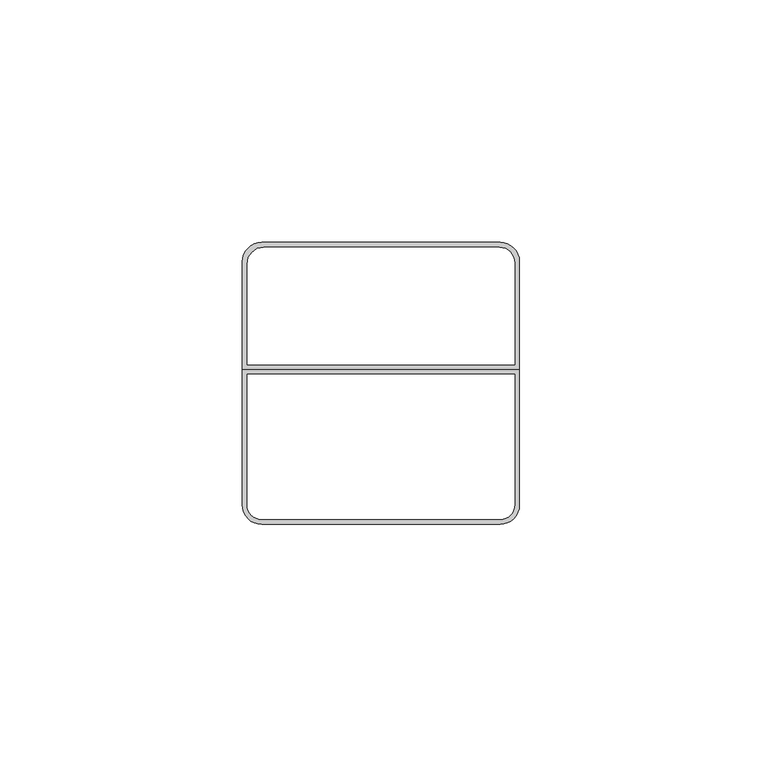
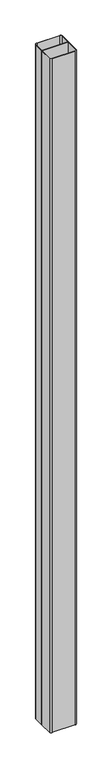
"""IFC4 building model written with IfcOpenShell, lengths in millimetres: proxy geometry, Vertical_Drop_Poles-Wiremold-Blank_Steel_Pole_Extender_5_Feet : 25DTC-E5."""

from ifc_helpers import new_model, si_unit, point, frame_2d, origin, origin_with_axes, place, context, project, spatial, polyline, circle_curve, trimmed, segment, composite_curve, outline, extrude, source, transform, mapped, element, save


def electrical_fixtures_675e44b0(model_context):
    return source(origin(), model_context, "Body", "SweptSolid", [
        extrude(outline(composite_curve([segment(trimmed(circle_curve(frame_2d((24.575, 22.2184983)), 4.0), [point((24.575, 26.2184983))], [point((28.575, 22.2184983))], False, "CARTESIAN"), True, "CONTINUOUS"), segment(polyline([(28.575, 22.2184983), (28.575, 0.0), (-28.575, 0.0), (-28.575, 22.2184983)]), True, "CONTINUOUS"), segment(trimmed(circle_curve(frame_2d((-24.575, 22.2184983)), 4.0), [point((-28.575, 22.2184983))], [point((-24.575, 26.2184983))], False, "CARTESIAN"), True, "CONTINUOUS"), segment(polyline([(-24.575, 26.2184983), (24.575, 26.2184983)]), True, "CONTINUOUS")], self_intersect=False), holes=[composite_curve([segment(polyline([(27.575, 1.0), (27.575, 22.0643906)]), True, "CONTINUOUS"), segment(trimmed(circle_curve(frame_2d((24.4208923, 22.0643906)), 3.1541077), [point((27.575, 22.0643906))], [point((24.4208923, 25.2184983))], True, "CARTESIAN"), True, "CONTINUOUS"), segment(polyline([(24.4208923, 25.2184983), (-24.1657583, 25.2184983)]), True, "CONTINUOUS"), segment(trimmed(circle_curve(frame_2d((-24.1657583, 21.8092567)), 3.4092417), [point((-24.1657583, 25.2184983))], [point((-27.575, 21.8092567))], True, "CARTESIAN"), True, "CONTINUOUS"), segment(polyline([(-27.575, 21.8092567), (-27.575, 1.0), (27.575, 1.0)]), True, "CONTINUOUS")], self_intersect=False)]), origin_with_axes(), (0.0, 0.0, 1.0), 1524.0),
        extrude(outline(composite_curve([segment(polyline([(28.575, 0.0), (28.575, -27.95)]), True, "CONTINUOUS"), segment(trimmed(circle_curve(frame_2d((24.575, -27.95)), 4.0), [point((28.575, -27.95))], [point((24.575, -31.95))], False, "CARTESIAN"), True, "CONTINUOUS"), segment(polyline([(24.575, -31.95), (-24.575, -31.95)]), True, "CONTINUOUS"), segment(trimmed(circle_curve(frame_2d((-24.575, -27.95)), 4.0), [point((-24.575, -31.95))], [point((-28.575, -27.95))], False, "CARTESIAN"), True, "CONTINUOUS"), segment(polyline([(-28.575, -27.95), (-28.575, 0.0), (28.575, 0.0)]), True, "CONTINUOUS")], self_intersect=False), holes=[composite_curve([segment(polyline([(-27.575, -1.0), (-27.575, -27.95)]), True, "CONTINUOUS"), segment(trimmed(circle_curve(frame_2d((-24.575, -27.95)), 3.0), [point((-27.575, -27.95))], [point((-24.575, -30.95))], True, "CARTESIAN"), True, "CONTINUOUS"), segment(polyline([(-24.575, -30.95), (24.575, -30.95)]), True, "CONTINUOUS"), segment(trimmed(circle_curve(frame_2d((24.575, -27.95)), 3.0), [point((24.575, -30.95))], [point((27.575, -27.95))], True, "CARTESIAN"), True, "CONTINUOUS"), segment(polyline([(27.575, -27.95), (27.575, -1.0), (-27.575, -1.0)]), True, "CONTINUOUS")], self_intersect=False)]), origin_with_axes(), (0.0, 0.0, 1.0), 1524.0),
    ])


if __name__ == "__main__":
    model = new_model("IFC4")
    model_context = context("Model", 3, world=origin())
    ifc_project = project(units=[si_unit("LENGTHUNIT", "METRE", prefix="MILLI")], contexts=[model_context])
    site = spatial("IfcSite", under=ifc_project)
    building = spatial("IfcBuilding", under=site)
    placement = place(None, origin())
    electrical_fixtures_shape = electrical_fixtures_675e44b0(model_context)
    element("IfcBuildingElementProxy", 1, Name="Vertical_Drop_Poles-Wiremold-Blank_Steel_Pole_Extender_5_Feet : 25DTC-E5", ObjectType="Vertical_Drop_Poles-Wiremold-Blank_Steel_Pole_Extender_5_Feet : 25DTC-E5", at=placement, inside=building, context=model_context, shape_type="MappedRepresentation", body=[
        mapped(electrical_fixtures_shape, transform((0.0, 0.0, 0.0), x_axis=(1.0, 0.0, 0.0), y_axis=(0.0, 1.0, 0.0), z_axis=(0.0, 0.0, 1.0))),
    ])
    save(model, "model.ifc")
